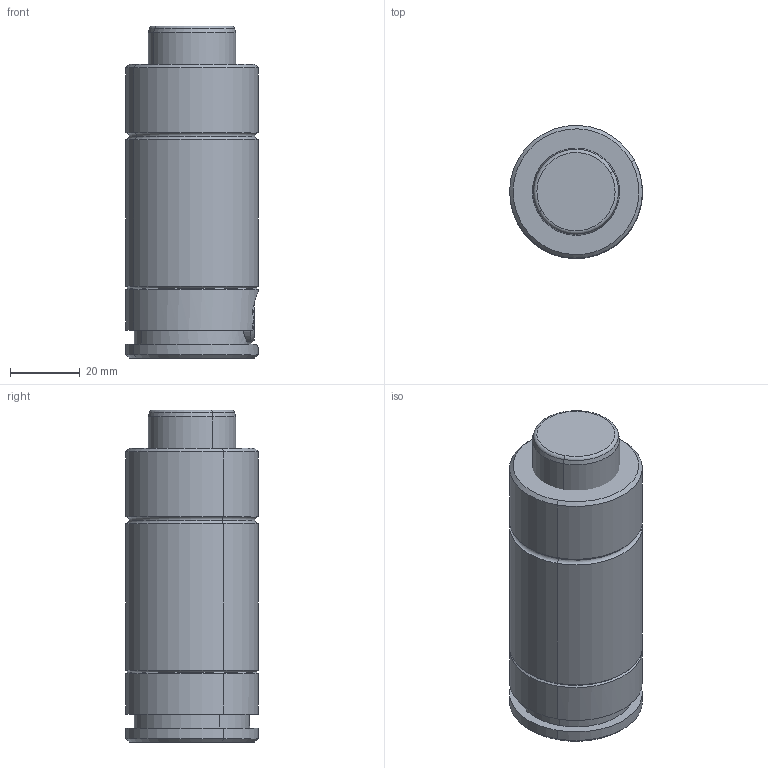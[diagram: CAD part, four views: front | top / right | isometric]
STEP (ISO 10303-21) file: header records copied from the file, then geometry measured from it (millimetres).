
FILE_DESCRIPTION(('CATIA V5 STEP Exchange'),'2;1');
FILE_NAME('W:\CATALOGO GENERAL 2018\FICHEROS CAD\003-TPH\TPH 1000C\TPH1000x10C.stp','2017-10-30T11:37:20+00:00',('none'),('none'),'CATIA Version 5 Release 17 (IN-10)','CATIA V5 STEP AP203','none');
FILE_SCHEMA(('CONFIG_CONTROL_DESIGN'));
Length unit declared in the file: millimetre
Products named in the file (1): TPH 1000x10C
Assembly tree (4 placements, depth 2):
  TPH 1000x10C
    #56
    #631
    #1424
    #2337
Bounding box: 37.99 x 37.99 x 95 mm (x, y, z)
Volume: 127591.3 mm3; surface area: 24096.1 mm2
Topology: 4 solids, 4 shells, 155 faces, 318 edges, 184 vertices
Faces by surface type: cone 44, cylinder 41, torus 40, plane 30
Entity records: 4076 total; most frequent: CARTESIAN_POINT 942, ORIENTED_EDGE 636, DIRECTION 540, EDGE_CURVE 318, AXIS2_PLACEMENT_3D 316, CIRCLE 192, VERTEX_POINT 184, EDGE_LOOP 168
